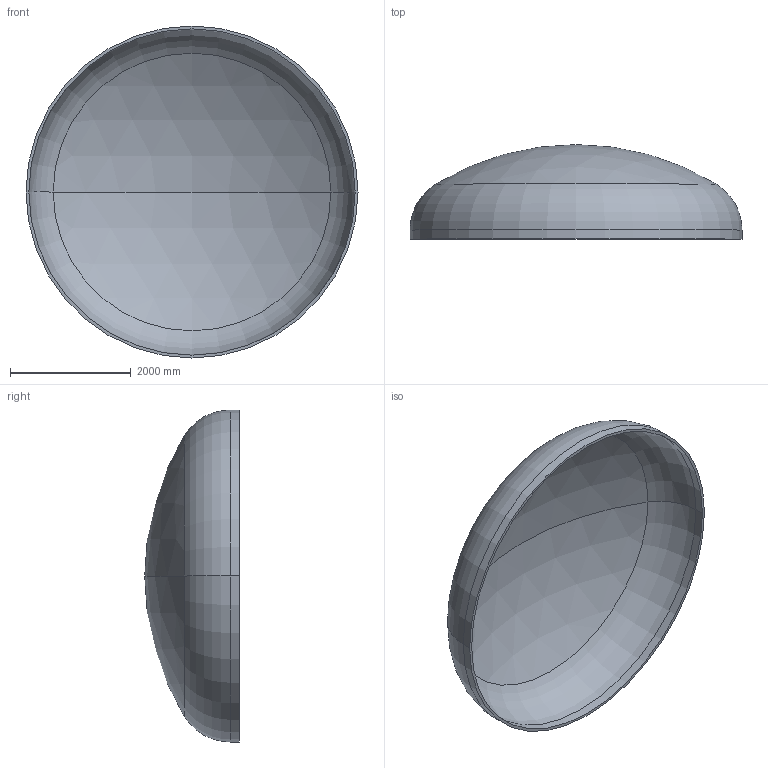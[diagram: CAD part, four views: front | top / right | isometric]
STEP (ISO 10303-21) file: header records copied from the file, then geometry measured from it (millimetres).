
FILE_DESCRIPTION (( 'STEP AP203' ), '1' );
FILE_NAME ('DIN 28013 Korbbogenform_-_Boden DIN 28013 - 5500 x 150 - I - s=47.step', '2016-07-04T10:34:19', ( '' ), ( '' ), 'SwSTEP 2.0', 'SolidWorks 2013', '' );
FILE_SCHEMA (( 'CONFIG_CONTROL_DESIGN' ));
Length unit declared in the file: millimetre
Products named in the file (1): DIN 28013 Korbbogenform_-_Boden DIN 28013 - 5500 x 150 - I - s=47
Bounding box: 5500 x 1566.18 x 5500 mm (x, y, z)
Volume: 1649224955.5 mm3; surface area: 70989547.4 mm2
Topology: 1 solids, 1 shells, 13 faces, 24 edges, 14 vertices
Faces by surface type: torus 4, cylinder 4, sphere 4, plane 1
Entity records: 407 total; most frequent: DIRECTION 72, CARTESIAN_POINT 52, ORIENTED_EDGE 48, AXIS2_PLACEMENT_3D 34, EDGE_CURVE 24, CIRCLE 20, VERTEX_POINT 14, EDGE_LOOP 14
